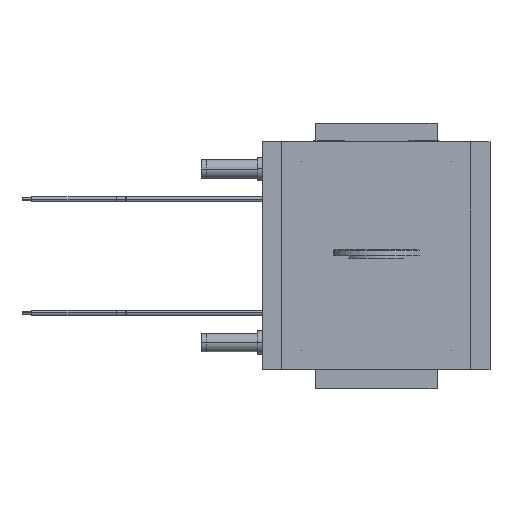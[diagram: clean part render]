
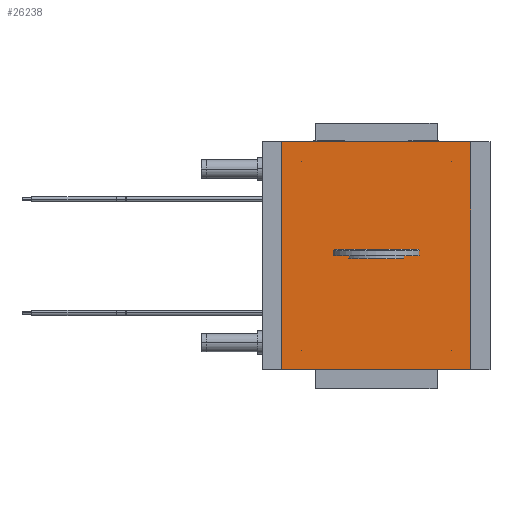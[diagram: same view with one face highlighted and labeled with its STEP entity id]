
A CAD part, top view. The second image highlights one B-rep face of the part: STEP entity #26238.
In plain terms, the highlighted planar face has unit normal (0, 0, 1).
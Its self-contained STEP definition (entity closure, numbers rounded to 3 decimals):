
#25924 = VERTEX_POINT('',#25925);
#25925 = CARTESIAN_POINT('',(-123.,-148.,402.));
#25932 = PLANE('',#25933);
#25933 = AXIS2_PLACEMENT_3D('',#25934,#25935,#25936);
#25934 = CARTESIAN_POINT('',(-123.,-148.,392.));
#25935 = DIRECTION('',(1.,0.,0.));
#25936 = DIRECTION('',(0.,0.,1.));
#25944 = PLANE('',#25945);
#25945 = AXIS2_PLACEMENT_3D('',#25946,#25947,#25948);
#25946 = CARTESIAN_POINT('',(-123.,-148.,392.));
#25947 = DIRECTION('',(0.,1.,0.));
#25948 = DIRECTION('',(0.,0.,1.));
#25985 = VERTEX_POINT('',#25986);
#25986 = CARTESIAN_POINT('',(-123.,148.,402.));
#26000 = PLANE('',#26001);
#26001 = AXIS2_PLACEMENT_3D('',#26002,#26003,#26004);
#26002 = CARTESIAN_POINT('',(-123.,148.,392.));
#26003 = DIRECTION('',(0.,1.,0.));
#26004 = DIRECTION('',(0.,0.,1.));
#26012 = EDGE_CURVE('',#25924,#25985,#26013,.T.);
#26013 = SURFACE_CURVE('',#26014,(#26018,#26025),.PCURVE_S1.);
#26014 = LINE('',#26015,#26016);
#26015 = CARTESIAN_POINT('',(-123.,-148.,402.));
#26016 = VECTOR('',#26017,1.);
#26017 = DIRECTION('',(0.,1.,0.));
#26018 = PCURVE('',#25932,#26019);
#26019 = DEFINITIONAL_REPRESENTATION('',(#26020),#26024);
#26020 = LINE('',#26021,#26022);
#26021 = CARTESIAN_POINT('',(10.,0.));
#26022 = VECTOR('',#26023,1.);
#26023 = DIRECTION('',(0.,-1.));
#26024 = ( GEOMETRIC_REPRESENTATION_CONTEXT(2) 
PARAMETRIC_REPRESENTATION_CONTEXT() REPRESENTATION_CONTEXT('2D SPACE',''
  ) );
#26025 = PCURVE('',#26026,#26031);
#26026 = PLANE('',#26027);
#26027 = AXIS2_PLACEMENT_3D('',#26028,#26029,#26030);
#26028 = CARTESIAN_POINT('',(-123.,-148.,402.));
#26029 = DIRECTION('',(0.,0.,1.));
#26030 = DIRECTION('',(1.,0.,0.));
#26031 = DEFINITIONAL_REPRESENTATION('',(#26032),#26036);
#26032 = LINE('',#26033,#26034);
#26033 = CARTESIAN_POINT('',(0.,0.));
#26034 = VECTOR('',#26035,1.);
#26035 = DIRECTION('',(0.,1.));
#26036 = ( GEOMETRIC_REPRESENTATION_CONTEXT(2) 
PARAMETRIC_REPRESENTATION_CONTEXT() REPRESENTATION_CONTEXT('2D SPACE',''
  ) );
#26044 = VERTEX_POINT('',#26045);
#26045 = CARTESIAN_POINT('',(123.,-148.,402.));
#26052 = PLANE('',#26053);
#26053 = AXIS2_PLACEMENT_3D('',#26054,#26055,#26056);
#26054 = CARTESIAN_POINT('',(123.,-148.,392.));
#26055 = DIRECTION('',(1.,0.,0.));
#26056 = DIRECTION('',(0.,0.,1.));
#26095 = VERTEX_POINT('',#26096);
#26096 = CARTESIAN_POINT('',(123.,148.,402.));
#26117 = EDGE_CURVE('',#26044,#26095,#26118,.T.);
#26118 = SURFACE_CURVE('',#26119,(#26123,#26130),.PCURVE_S1.);
#26119 = LINE('',#26120,#26121);
#26120 = CARTESIAN_POINT('',(123.,-148.,402.));
#26121 = VECTOR('',#26122,1.);
#26122 = DIRECTION('',(0.,1.,0.));
#26123 = PCURVE('',#26052,#26124);
#26124 = DEFINITIONAL_REPRESENTATION('',(#26125),#26129);
#26125 = LINE('',#26126,#26127);
#26126 = CARTESIAN_POINT('',(10.,0.));
#26127 = VECTOR('',#26128,1.);
#26128 = DIRECTION('',(0.,-1.));
#26129 = ( GEOMETRIC_REPRESENTATION_CONTEXT(2) 
PARAMETRIC_REPRESENTATION_CONTEXT() REPRESENTATION_CONTEXT('2D SPACE',''
  ) );
#26130 = PCURVE('',#26026,#26131);
#26131 = DEFINITIONAL_REPRESENTATION('',(#26132),#26136);
#26132 = LINE('',#26133,#26134);
#26133 = CARTESIAN_POINT('',(246.,0.));
#26134 = VECTOR('',#26135,1.);
#26135 = DIRECTION('',(0.,1.));
#26136 = ( GEOMETRIC_REPRESENTATION_CONTEXT(2) 
PARAMETRIC_REPRESENTATION_CONTEXT() REPRESENTATION_CONTEXT('2D SPACE',''
  ) );
#26163 = EDGE_CURVE('',#25924,#26044,#26164,.T.);
#26164 = SURFACE_CURVE('',#26165,(#26169,#26176),.PCURVE_S1.);
#26165 = LINE('',#26166,#26167);
#26166 = CARTESIAN_POINT('',(-123.,-148.,402.));
#26167 = VECTOR('',#26168,1.);
#26168 = DIRECTION('',(1.,0.,0.));
#26169 = PCURVE('',#25944,#26170);
#26170 = DEFINITIONAL_REPRESENTATION('',(#26171),#26175);
#26171 = LINE('',#26172,#26173);
#26172 = CARTESIAN_POINT('',(10.,0.));
#26173 = VECTOR('',#26174,1.);
#26174 = DIRECTION('',(0.,1.));
#26175 = ( GEOMETRIC_REPRESENTATION_CONTEXT(2) 
PARAMETRIC_REPRESENTATION_CONTEXT() REPRESENTATION_CONTEXT('2D SPACE',''
  ) );
#26176 = PCURVE('',#26026,#26177);
#26177 = DEFINITIONAL_REPRESENTATION('',(#26178),#26182);
#26178 = LINE('',#26179,#26180);
#26179 = CARTESIAN_POINT('',(0.,0.));
#26180 = VECTOR('',#26181,1.);
#26181 = DIRECTION('',(1.,0.));
#26182 = ( GEOMETRIC_REPRESENTATION_CONTEXT(2) 
PARAMETRIC_REPRESENTATION_CONTEXT() REPRESENTATION_CONTEXT('2D SPACE',''
  ) );
#26210 = EDGE_CURVE('',#25985,#26095,#26211,.T.);
#26211 = SURFACE_CURVE('',#26212,(#26216,#26223),.PCURVE_S1.);
#26212 = LINE('',#26213,#26214);
#26213 = CARTESIAN_POINT('',(-123.,148.,402.));
#26214 = VECTOR('',#26215,1.);
#26215 = DIRECTION('',(1.,0.,0.));
#26216 = PCURVE('',#26000,#26217);
#26217 = DEFINITIONAL_REPRESENTATION('',(#26218),#26222);
#26218 = LINE('',#26219,#26220);
#26219 = CARTESIAN_POINT('',(10.,0.));
#26220 = VECTOR('',#26221,1.);
#26221 = DIRECTION('',(0.,1.));
#26222 = ( GEOMETRIC_REPRESENTATION_CONTEXT(2) 
PARAMETRIC_REPRESENTATION_CONTEXT() REPRESENTATION_CONTEXT('2D SPACE',''
  ) );
#26223 = PCURVE('',#26026,#26224);
#26224 = DEFINITIONAL_REPRESENTATION('',(#26225),#26229);
#26225 = LINE('',#26226,#26227);
#26226 = CARTESIAN_POINT('',(0.,296.));
#26227 = VECTOR('',#26228,1.);
#26228 = DIRECTION('',(1.,0.));
#26229 = ( GEOMETRIC_REPRESENTATION_CONTEXT(2) 
PARAMETRIC_REPRESENTATION_CONTEXT() REPRESENTATION_CONTEXT('2D SPACE',''
  ) );
#26238 = ADVANCED_FACE('',(#26239),#26026,.T.);
#26239 = FACE_BOUND('',#26240,.T.);
#26240 = EDGE_LOOP('',(#26241,#26242,#26243,#26244));
#26241 = ORIENTED_EDGE('',*,*,#26012,.F.);
#26242 = ORIENTED_EDGE('',*,*,#26163,.T.);
#26243 = ORIENTED_EDGE('',*,*,#26117,.T.);
#26244 = ORIENTED_EDGE('',*,*,#26210,.F.);
